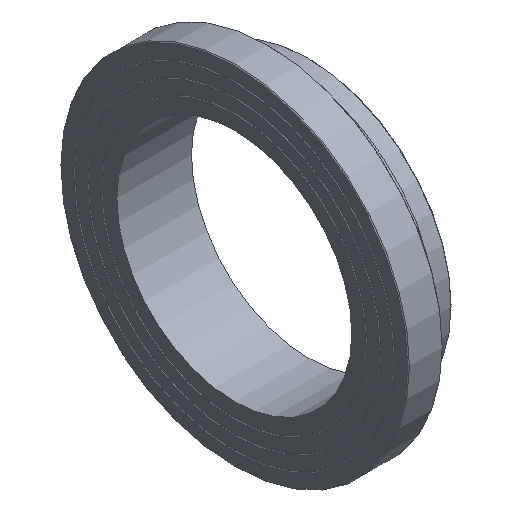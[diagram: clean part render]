
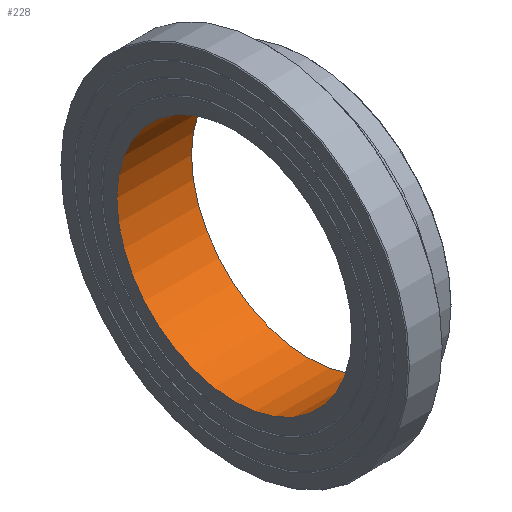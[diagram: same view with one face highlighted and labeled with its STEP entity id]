
A CAD part, isometric view. The second image highlights one B-rep face of the part: STEP entity #228.
In plain terms, the highlighted cylindrical face has radius 204.6 mm (diameter 409.2 mm), a full revolution.
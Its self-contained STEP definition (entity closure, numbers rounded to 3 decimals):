
#33=CYLINDRICAL_SURFACE('',#274,204.6);
#50=ORIENTED_EDGE('',*,*,#79,.F.);
#51=ORIENTED_EDGE('',*,*,#76,.T.);
#76=EDGE_CURVE('',#96,#96,#116,.T.);
#79=EDGE_CURVE('',#99,#99,#119,.T.);
#96=VERTEX_POINT('',#383);
#99=VERTEX_POINT('',#390);
#116=CIRCLE('',#257,204.6);
#119=CIRCLE('',#261,204.6);
#150=EDGE_LOOP('',(#50));
#151=EDGE_LOOP('',(#51));
#190=FACE_BOUND('',#150,.T.);
#191=FACE_BOUND('',#151,.T.);
#228=ADVANCED_FACE('',(#190,#191),#33,.F.);
#257=AXIS2_PLACEMENT_3D('',#382,#303,#304);
#261=AXIS2_PLACEMENT_3D('',#389,#311,#312);
#274=AXIS2_PLACEMENT_3D('',#410,#337,#338);
#303=DIRECTION('',(-1.,0.,0.));
#304=DIRECTION('',(0.,0.,1.));
#311=DIRECTION('',(-1.,0.,0.));
#312=DIRECTION('',(0.,0.,1.));
#337=DIRECTION('',(-1.,0.,0.));
#338=DIRECTION('',(0.,0.,1.));
#382=CARTESIAN_POINT('',(0.,0.,0.));
#383=CARTESIAN_POINT('',(0.,0.,204.6));
#389=CARTESIAN_POINT('',(130.,0.,0.));
#390=CARTESIAN_POINT('',(130.,0.,204.6));
#410=CARTESIAN_POINT('',(60.,0.,0.));
